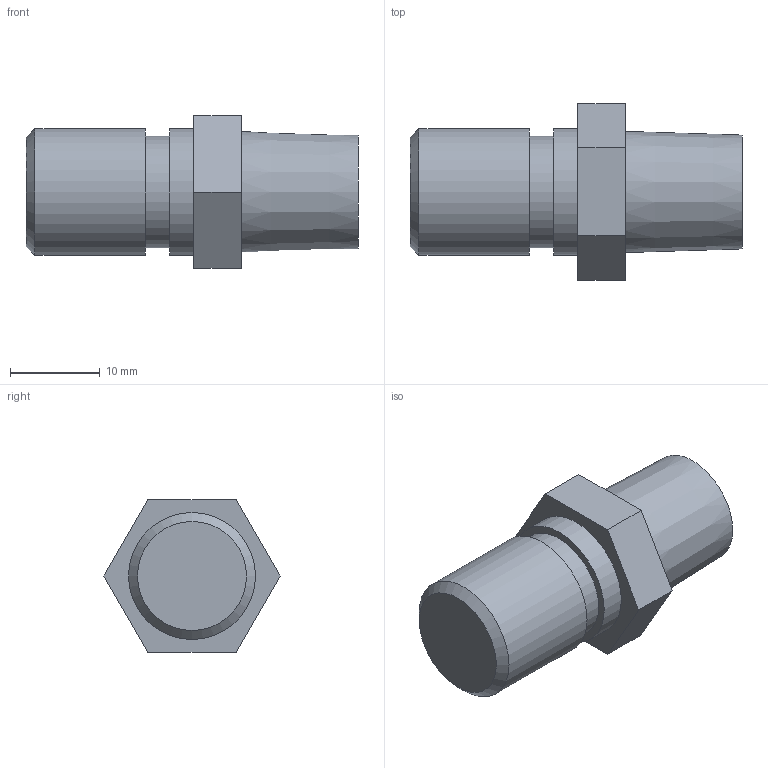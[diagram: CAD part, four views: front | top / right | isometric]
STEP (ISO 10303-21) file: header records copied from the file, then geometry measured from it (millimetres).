
FILE_DESCRIPTION((''),'2;1');
FILE_NAME('Z:\客先\あ行\アオイ\99_その他\3D_DATA\CPR_Series\8CPR-SPV-R\STEP\203\CPR-SPV-R1-4.ipt.stp','2008-07-04T11:08:40',(''),(''),'Autodesk Inventor 2009','Autodesk Inventor 2009','');
FILE_SCHEMA(('CONFIG_CONTROL_DESIGN'));
Length unit declared in the file: millimetre
Products named in the file (1): CPR-SPV-R1-4
Bounding box: 37 x 19.63 x 17 mm (x, y, z)
Volume: 5898.5 mm3; surface area: 2193.1 mm2
Topology: 1 solids, 1 shells, 17 faces, 32 edges, 21 vertices
Faces by surface type: plane 12, cylinder 3, cone 2
Full cylindrical faces by diameter (mm): 12.4 x1, 14.15 x2
Entity records: 419 total; most frequent: DIRECTION 72, CARTESIAN_POINT 66, ORIENTED_EDGE 54, AXIS2_PLACEMENT_3D 27, EDGE_CURVE 27, EDGE_LOOP 26, VERTEX_POINT 21, VECTOR 18
